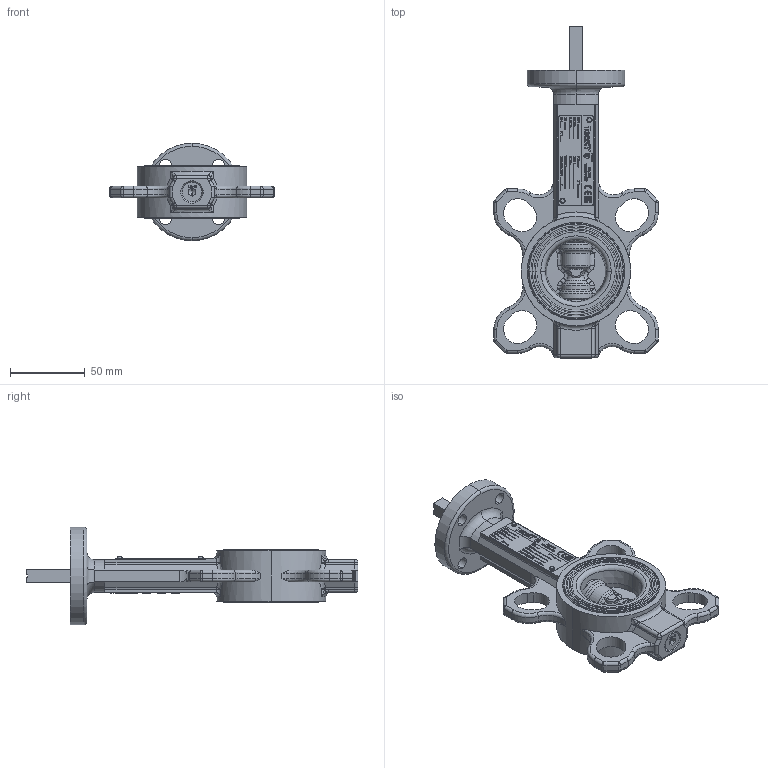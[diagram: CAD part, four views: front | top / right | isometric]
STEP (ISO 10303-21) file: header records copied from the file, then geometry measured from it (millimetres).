
FILE_DESCRIPTION (( 'STEP AP203' ), '1' );
FILE_NAME ('VPN-00 DN40.STEP', '2014-06-02T11:40:57', ( 'FAREX' ), ( '' ), 'SwSTEP 2.0', 'SolidWorks 2011', '' );
FILE_SCHEMA (( 'CONFIG_CONTROL_DESIGN' ));
Products named in the file (1): VPN-00 DN40
Bounding box: 109.78 x 221.7 x 65 mm (x, y, z)
Volume: 237402.9 mm3; surface area: 87282 mm2
Topology: 15 solids, 15 shells, 3287 faces, 8213 edges, 5317 vertices
Faces by surface type: bspline 1543, plane 1202, cylinder 287, torus 161, cone 70, sphere 24
Entity records: 156712 total; most frequent: CARTESIAN_POINT 88530, ORIENTED_EDGE 16346, DIRECTION 9465, EDGE_CURVE 8173, VERTEX_POINT 5317, VECTOR 3993, LINE 3993, EDGE_LOOP 3734
